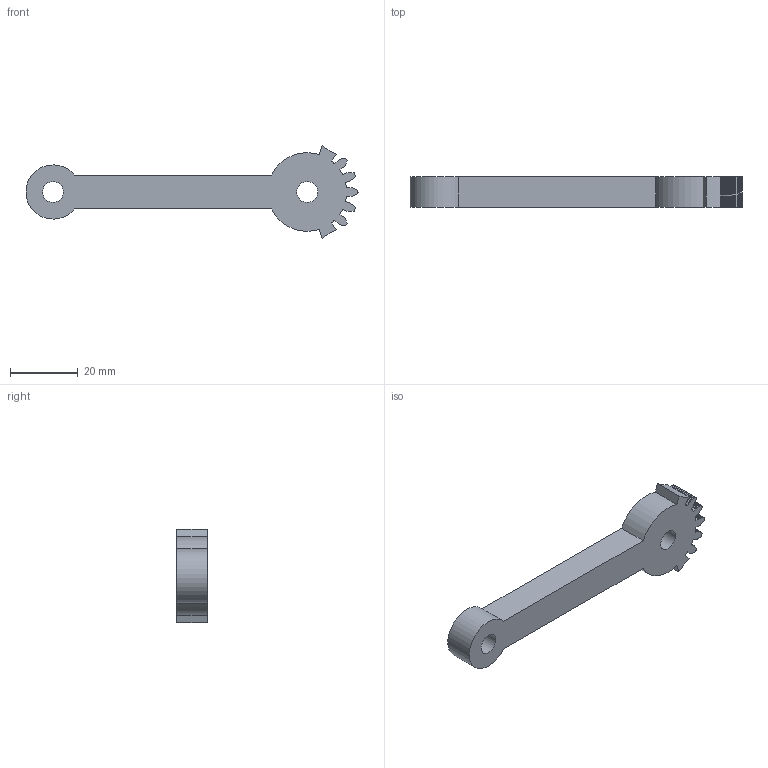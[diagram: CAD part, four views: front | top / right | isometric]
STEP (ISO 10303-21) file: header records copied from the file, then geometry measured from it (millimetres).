
FILE_DESCRIPTION(('Open CASCADE Model'),'2;1');
FILE_NAME('Open CASCADE Shape Model','2026-10-15T19:48:37',('Author'),( 'Open CASCADE'),'Open CASCADE STEP processor 7.9','Open CASCADE 7.9' ,'Unknown');
FILE_SCHEMA(('AUTOMOTIVE_DESIGN { 1 0 10303 214 1 1 1 1 }'));
Length unit declared in the file: millimetre
Products named in the file (1): Open CASCADE STEP translator 7.9 6
Bounding box: 97.97 x 9 x 27.48 mm (x, y, z)
Volume: 10667.1 mm3; surface area: 5064.2 mm2
Topology: 1 solids, 1 shells, 141 faces, 417 edges, 278 vertices
Faces by surface type: plane 132, cylinder 9
Full cylindrical faces by diameter (mm): 6.2 x2
Entity records: 10087 total; most frequent: CARTESIAN_POINT 1733, DIRECTION 1536, LINE 1207, VECTOR 1207, ORIENTED_EDGE 834, PCURVE 834, DEFINITIONAL_REPRESENTATION 834, EDGE_CURVE 417
